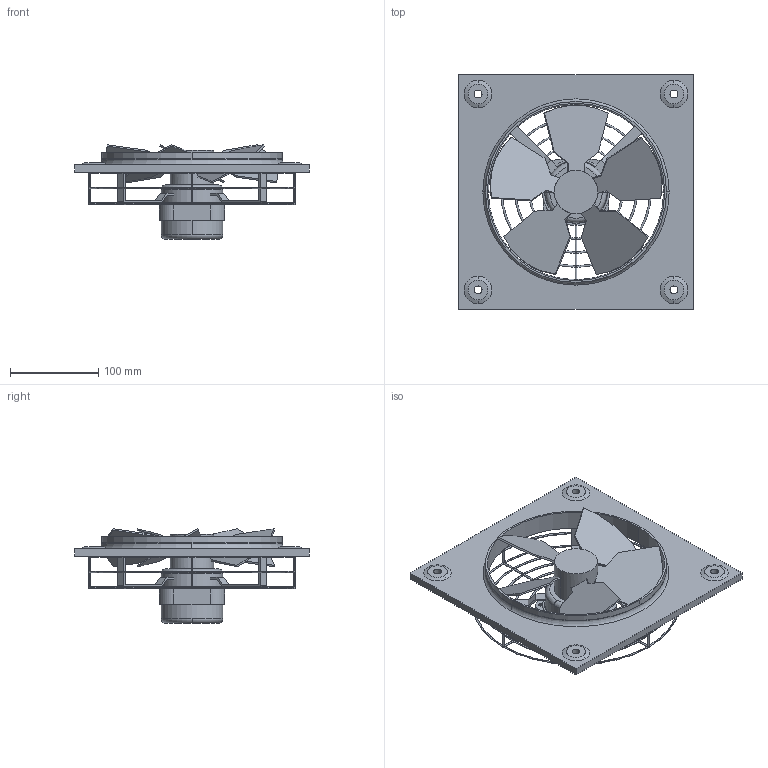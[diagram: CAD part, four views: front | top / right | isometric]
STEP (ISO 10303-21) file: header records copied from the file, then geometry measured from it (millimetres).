
FILE_DESCRIPTION(('STEP AP214'),'1');
FILE_NAME('fan_5110001400.stp','2017-06-30T15:24:52',('TraceParts'),('TraceParts S.A.'),'Spatial InterOp 3D',' ',' ');
FILE_SCHEMA(('automotive_design'));
Length unit declared in the file: millimetre
Products named in the file (1): fan_5110001400
Bounding box: 266 x 266 x 107.12 mm (x, y, z)
Volume: 748239.7 mm3; surface area: 220623.8 mm2
Topology: 1 solids, 1 shells, 296 faces, 839 edges, 507 vertices
Faces by surface type: plane 109, cylinder 103, torus 68, cone 16
Entity records: 17568 total; most frequent: CARTESIAN_POINT 7683, ORIENTED_EDGE 1678, DIRECTION 1462, EDGE_CURVE 839, AXIS2_PLACEMENT_3D 558, VERTEX_POINT 507, LINE 346, VECTOR 346
